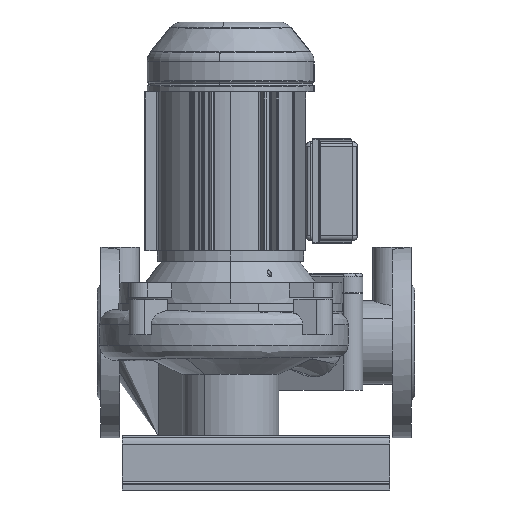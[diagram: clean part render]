
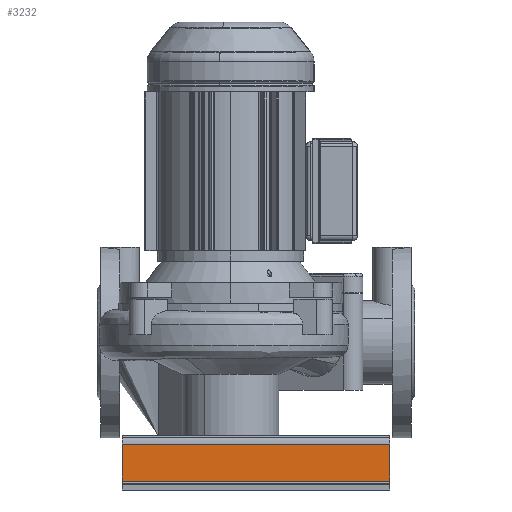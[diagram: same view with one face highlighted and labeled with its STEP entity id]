
A CAD part, left-side view. The second image highlights one B-rep face of the part: STEP entity #3232.
In plain terms, the highlighted planar face has unit normal (-1, 0, 0).
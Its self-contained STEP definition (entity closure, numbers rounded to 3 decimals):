
#3232=ADVANCED_FACE('',(#7812),#7813,.T.);
#3344=EDGE_CURVE('',#8009,#8012,#8013,.T.);
#3406=EDGE_CURVE('',#8094,#8009,#8095,.T.);
#3408=EDGE_CURVE('',#8097,#8094,#8098,.T.);
#3410=EDGE_CURVE('',#8097,#8012,#8100,.T.);
#7812=FACE_OUTER_BOUND('',#17494,.T.);
#7813=PLANE('',#17495);
#8009=VERTEX_POINT('',#17728);
#8012=VERTEX_POINT('',#17732);
#8013=LINE('',#17733,#17734);
#8094=VERTEX_POINT('',#17857);
#8095=LINE('',#17858,#17859);
#8097=VERTEX_POINT('',#17862);
#8098=LINE('',#17863,#17864);
#8100=LINE('',#17867,#17868);
#17494=EDGE_LOOP('',(#26153,#26154,#26155,#26156));
#17495=AXIS2_PLACEMENT_3D('',#26157,#26158,#26159);
#17728=CARTESIAN_POINT('',(-66.,36.0,0.0));
#17732=CARTESIAN_POINT('',(-66.,36.0,210.0));
#17733=CARTESIAN_POINT('',(-66.,36.0,0.0));
#17734=VECTOR('',#26498,1.0);
#17857=CARTESIAN_POINT('',(-66.,7.,0.0));
#17858=CARTESIAN_POINT('',(-66.,7.,0.0));
#17859=VECTOR('',#26567,1.0);
#17862=CARTESIAN_POINT('',(-66.,7.,210.0));
#17863=CARTESIAN_POINT('',(-66.,7.,210.0));
#17864=VECTOR('',#26568,1.0);
#17867=CARTESIAN_POINT('',(-66.,7.,210.0));
#17868=VECTOR('',#26569,1.0);
#26153=ORIENTED_EDGE('',*,*,#3344,.F.);
#26154=ORIENTED_EDGE('',*,*,#3406,.F.);
#26155=ORIENTED_EDGE('',*,*,#3408,.F.);
#26156=ORIENTED_EDGE('',*,*,#3410,.T.);
#26157=CARTESIAN_POINT('',(-66.,4.0,0.0));
#26158=DIRECTION('',(-1.0,0.0,0.0));
#26159=DIRECTION('',(0.0,-0.0,1.0));
#26498=DIRECTION('',(0.0,0.0,1.0));
#26567=DIRECTION('',(0.0,1.0,0.0));
#26568=DIRECTION('',(0.0,0.0,-1.0));
#26569=DIRECTION('',(0.0,1.0,0.0));
